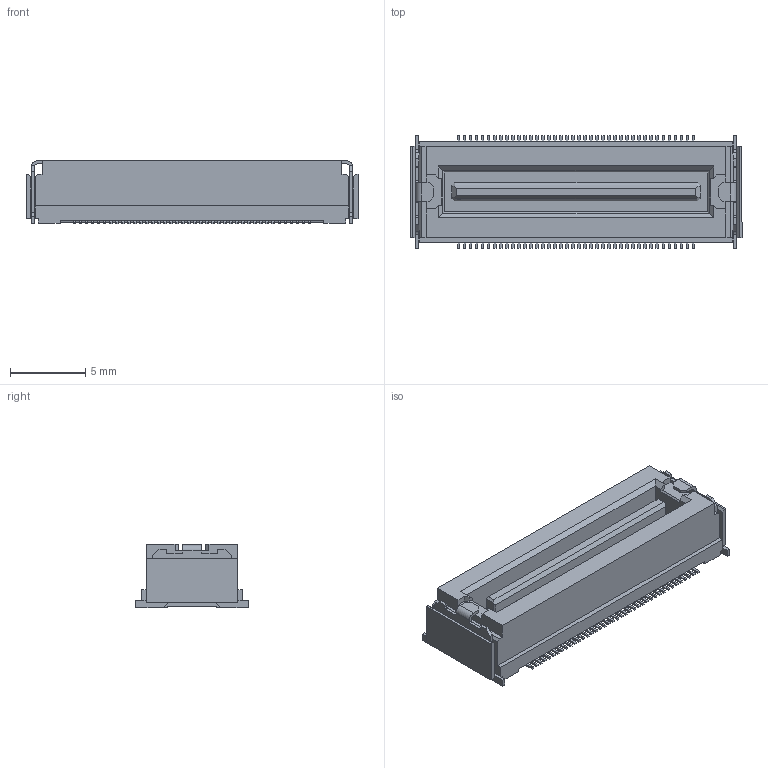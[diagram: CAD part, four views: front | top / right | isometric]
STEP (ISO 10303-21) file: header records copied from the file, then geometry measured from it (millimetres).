
FILE_DESCRIPTION(('Creo Elements/Direct Modeling STEP Export'),'2;1');
FILE_NAME('P3D161_DU00-080SB.stp','2017-11-27T15:44:41',(''),(''),'Creo Elements/Direct Modeling STEP processor for AP214 (Solid Model)','Creo Elements/Direct Modeling 19.0F 14-Feb-2017 (C) Parametric Technology GmbH','');
FILE_SCHEMA(('AUTOMOTIVE_DESIGN { 1 0 10303 214 1 1 1 1 }'));
Length unit declared in the file: millimetre
Products named in the file (2): DU00-080SB
Assembly tree (1 placements, depth 2):
  DU00-080SB
    DU00-080SB
Bounding box: 22.1 x 7.5 x 4.25 mm (x, y, z)
Volume: 440.7 mm3; surface area: 798.2 mm2
Topology: 1 solids, 1 shells, 874 faces, 2469 edges, 1638 vertices
Faces by surface type: plane 698, cylinder 176
Entity records: 28022 total; most frequent: CARTESIAN_POINT 4979, ORIENTED_EDGE 4938, DIRECTION 4569, EDGE_CURVE 2469, VECTOR 2113, LINE 2113, VERTEX_POINT 1638, AXIS2_PLACEMENT_3D 1228
